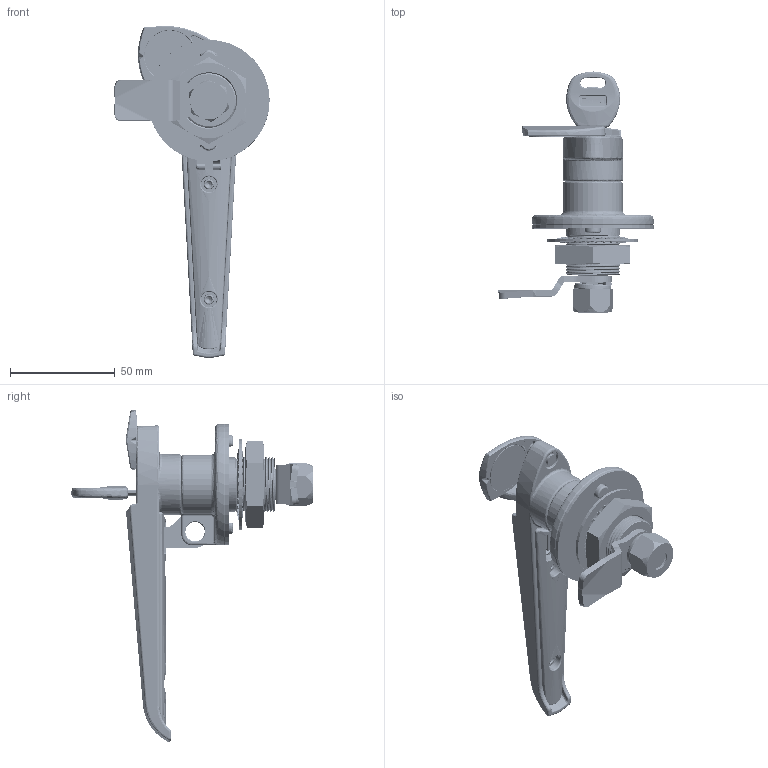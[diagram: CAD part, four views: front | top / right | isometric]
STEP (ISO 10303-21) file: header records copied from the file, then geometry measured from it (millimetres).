
FILE_DESCRIPTION(/* description */ (''),/* implementation_level */ '2;1');
FILE_NAME(/* name */ 'B-1319装配体_sldasm.stp',/* time_stamp */ '2026-06-18T14:05:36+08:00',/* author */ (''),/* organization */ (''),/* preprocessor_version */ 'ST-DEVELOPER v19.4',/* originating_system */ 'SIEMENS PLM Software NX2306.1700',/* authorisation */ '');
FILE_SCHEMA (('AUTOMOTIVE_DESIGN { 1 0 10303 214 3 1 1 1 }'));
Products named in the file (31): 9300圆锥型弹簧_sldprt; 弹子锁弹簧_sldprt; 弹子1_sldprt; 0.75X4密封圈_sldprt; 弹子3_sldprt; 定位销_sldprt; 弹子2_sldprt; 9322插片_sldprt; 9322锁芯套_sldprt; 9322锁芯_sldprt; 9322钥匙_sldprt; CAMD4507_sldprt; B-1319泡沫垫_sldprt; B-1319圆锥形弹簧_sldprt; 8X4.3X0.4垫片_sldprt; M3X5十字平头螺钉_sldprt; B-1319塑料盖_sldprt; B-1319盖子_sldprt; prevailing torque all-metal 1 gb_sldprt; M12弹垫_sldprt; M26齿垫_sldprt; B-1319锁舌_sldprt; J-M26x1.5螺母_sldprt; B-1319垫片_sldprt; 3.1X22.2密封圈_sldprt; M3X8内六角紧定螺钉_sldprt; B-1319挂鼻_sldprt; B-1319底座_sldprt; B-1319手柄_sldprt; 9322锁芯装配体_sldasm; B-1319装配体_sldasm
Assembly tree (40 placements, depth 3):
  B-1319装配体_sldasm
    B-1319手柄_sldprt
    B-1319底座_sldprt
    B-1319挂鼻_sldprt
    M3X8内六角紧定螺钉_sldprt
    3.1X22.2密封圈_sldprt
    B-1319垫片_sldprt
    J-M26x1.5螺母_sldprt
    B-1319锁舌_sldprt
    M26齿垫_sldprt
    M12弹垫_sldprt
    prevailing torque all-metal 1 gb_sldprt
    B-1319盖子_sldprt
    9322锁芯装配体_sldasm
      9322钥匙_sldprt
      9322锁芯_sldprt
      9322锁芯套_sldprt
      9322插片_sldprt
      弹子2_sldprt  x2
      定位销_sldprt
      弹子3_sldprt
      0.75X4密封圈_sldprt
      弹子1_sldprt  x2
      弹子锁弹簧_sldprt  x5
      9300圆锥型弹簧_sldprt  x5
    B-1319塑料盖_sldprt
    M3X5十字平头螺钉_sldprt
    8X4.3X0.4垫片_sldprt
    B-1319圆锥形弹簧_sldprt
    B-1319泡沫垫_sldprt
    CAMD4507_sldprt
Bounding box: 74.11 x 115.09 x 158.55 mm (x, y, z)
Volume: 89413.1 mm3; surface area: 67254.6 mm2
Topology: 39 solids, 39 shells, 3387 faces, 8727 edges, 5448 vertices
Faces by surface type: bspline 1041, cylinder 941, plane 824, revolution 313, cone 113, extrusion 111, torus 36, sphere 8
Full cylindrical faces by diameter (mm): 1.2 x5, 2 x5, 2.5 x2, 2.6 x16, 2.8 x10, 2.9 x1, 3 x13, 4.3 x1, 5 x3, 5.3 x1, 5.5 x1, 5.9 x1, 6 x1, 6.25 x2, 7.5 x2, 8 x4, 8.2 x1, 8.5 x1, 9.2 x2, 9.5 x7, 11 x1, 11.5 x1, 15.8 x1, 16 x1, 16.1 x1, 16.3 x1, 16.5 x1, 18 x1, 21.8 x1, 22.5 x1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
Entity records: 254954 total; most frequent: CARTESIAN_POINT 187552, ORIENTED_EDGE 16144, DIRECTION 9444, EDGE_CURVE 8072, VERTEX_POINT 5156, B_SPLINE_CURVE_WITH_KNOTS 4268, EDGE_LOOP 3547, AXIS2_PLACEMENT_3D 3506
